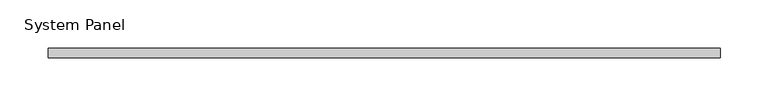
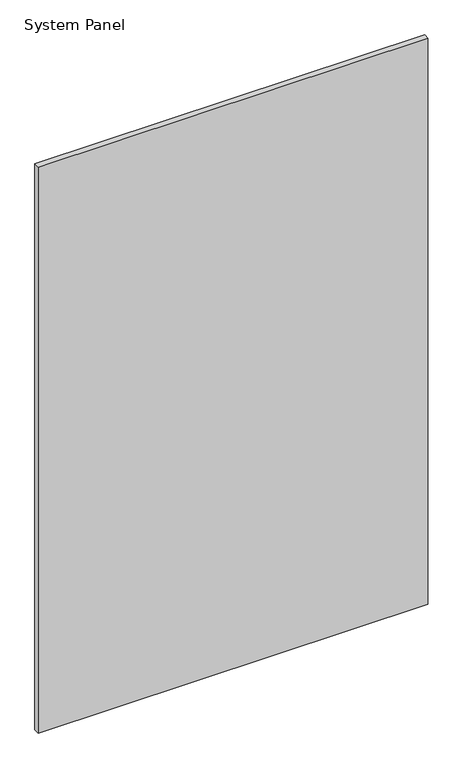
"""IFC4 building model written with IfcOpenShell, lengths in millimetres: plate geometry, System Panel : стекло_смещение_20."""

from ifc_helpers import new_model, si_unit, origin, origin_with_axes, place, context, project, spatial, polyline, outline, extrude, source, transform, mapped, element, save


def system_panel_c1f41088(model_context):
    return source(origin(), model_context, "Body", "SweptSolid", [
        extrude(outline(polyline([(350.0, 15.0), (-350.0, 15.0), (-350.0, 25.0), (350.0, 25.0), (350.0, 15.0)])), origin_with_axes(), (0.0, 0.0, 1.0), 1075.0),
    ])


if __name__ == "__main__":
    model = new_model("IFC4")
    model_context = context("Model", 3, world=origin())
    ifc_project = project(units=[si_unit("LENGTHUNIT", "METRE", prefix="MILLI")], contexts=[model_context])
    site = spatial("IfcSite", under=ifc_project)
    building = spatial("IfcBuilding", under=site)
    placement = place(None, origin())
    system_panel_shape = system_panel_c1f41088(model_context)
    element("IfcPlate", 1, ObjectType="System Panel : стекло_смещение_20", at=placement, inside=building, context=model_context, shape_type="MappedRepresentation", body=[
        mapped(system_panel_shape, transform((0.0, 0.0, 0.0), x_axis=(1.0, 0.0, 0.0), y_axis=(0.0, 1.0, 0.0), z_axis=(0.0, 0.0, 1.0))),
    ])
    save(model, "model.ifc")
